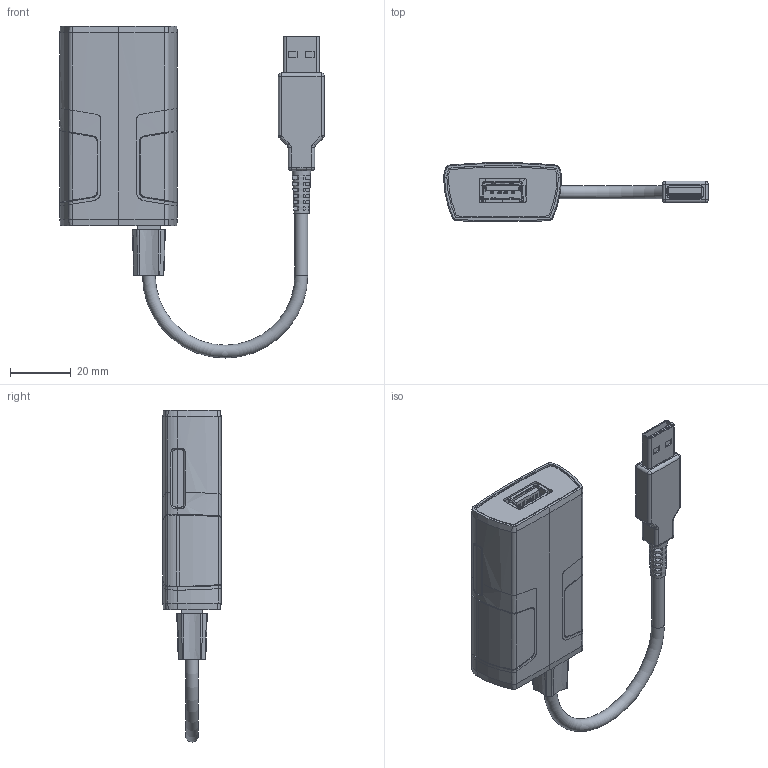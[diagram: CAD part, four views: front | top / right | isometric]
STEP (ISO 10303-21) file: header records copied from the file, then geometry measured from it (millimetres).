
FILE_DESCRIPTION(/* description */ (''),/* implementation_level */ '2;1');
FILE_NAME(/* name */ '/Users/leo/Desktop/Desktop - Leonardo’s MacBook Air/Coolgear May/CM-M4160-ISO/CM-M4160-ISO Model3D LPV1.step',/* time_stamp */ '2021-06-24T16:37:29-04:00',/* author */ (''),/* organization */ (''),/* preprocessor_version */ 'ST-DEVELOPER v18.1',/* originating_system */ 'Autodesk Translation Framework v10.9.0.1377',/* authorisation */ '');
FILE_SCHEMA (('AUTOMOTIVE_DESIGN { 1 0 10303 214 3 1 1 }'));
Length unit declared in the file: millimetre
Products named in the file (1): FusionComponent
Bounding box: 86.67 x 19.16 x 108.86 mm (x, y, z)
Volume: 17598.6 mm3; surface area: 28699.6 mm2
Topology: 10 solids, 20 shells, 2155 faces, 6024 edges, 3852 vertices
Faces by surface type: plane 1375, cylinder 586, bspline 93, cone 63, torus 24, sphere 14
Full cylindrical faces by diameter (mm): 1.119 x1, 1.44 x1, 2.36 x1, 3.36 x2, 4 x1, 4.248 x1
Entity records: 71255 total; most frequent: CARTESIAN_POINT 15587, ORIENTED_EDGE 12024, DIRECTION 11096, EDGE_CURVE 6012, LINE 4396, VECTOR 4396, VERTEX_POINT 3852, AXIS2_PLACEMENT_3D 3350
